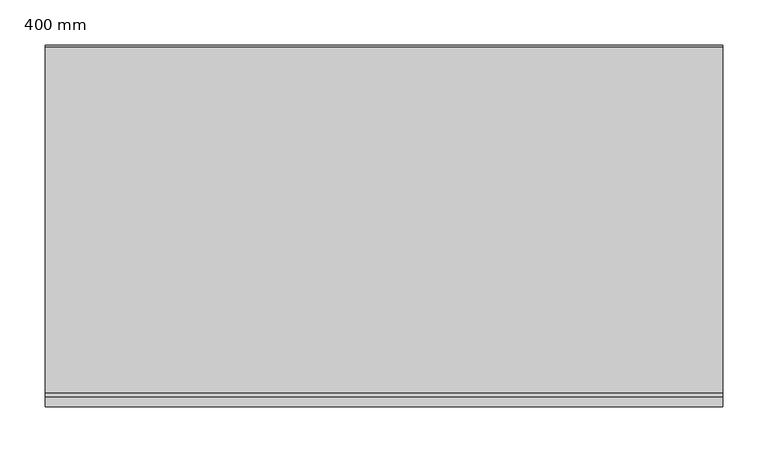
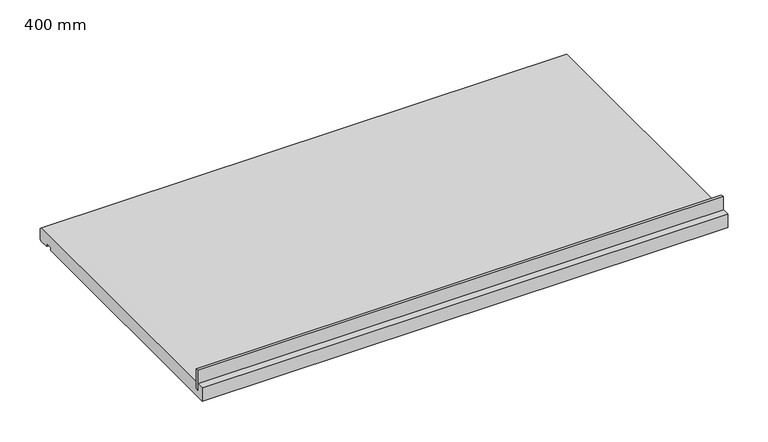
"""IFC4 building model written with IfcOpenShell, lengths in millimetres: proxy geometry, 400_35_NS_raamdorpel_kunststof_klik : 400 mm."""

from ifc_helpers import new_model, si_unit, frame, origin, place, context, project, spatial, polyline, outline, extrude, source, transform, mapped, element, save


def proxy_400_mm_b8799641(model_context):
    return source(origin(), model_context, "Body", "SweptSolid", [
        extrude(outline(polyline([(-375.0, 11.0), (-375.0, 15.0), (375.0, 15.0), (375.0, 11.0), (-375.0, 11.0)])), frame((0.0, 0.0, 10.0), z_axis=(0.0, 0.0, 1.0), x_axis=(1.0, 0.0, 0.0)), (0.0, 0.0, 1.0), 30.0),
        extrude(outline(polyline([(15.0, 20.0), (398.0, 20.0), (400.0, 18.0), (400.0, 2.0), (398.0, 0.0), (385.0, 0.0), (385.0, 5.0), (375.0, 5.0), (375.0, 0.0), (0.0, 0.0), (0.0, 20.0), (11.0, 20.0), (11.0, 10.0), (15.0, 10.0), (15.0, 20.0)])), frame((-375.0, 0.0, 0.0), z_axis=(1.0, 0.0, 0.0), x_axis=(0.0, 1.0, 0.0)), (0.0, 0.0, 1.0), 750.0),
    ])


if __name__ == "__main__":
    model = new_model("IFC4")
    model_context = context("Model", 3, world=origin())
    ifc_project = project(units=[si_unit("LENGTHUNIT", "METRE", prefix="MILLI")], contexts=[model_context])
    site = spatial("IfcSite", under=ifc_project)
    building = spatial("IfcBuilding", under=site)
    placement = place(None, origin())
    proxy_400_mm_shape = proxy_400_mm_b8799641(model_context)
    element("IfcBuildingElementProxy", 1, Name="400_35_NS_raamdorpel_kunststof_klik : 400 mm", ObjectType="400_35_NS_raamdorpel_kunststof_klik : 400 mm", at=placement, inside=building, context=model_context, shape_type="MappedRepresentation", body=[
        mapped(proxy_400_mm_shape, transform((0.0, 0.0, 0.0), x_axis=(1.0, 0.0, 0.0), y_axis=(0.0, 1.0, 0.0), z_axis=(0.0, 0.0, 1.0))),
    ])
    save(model, "model.ifc")
